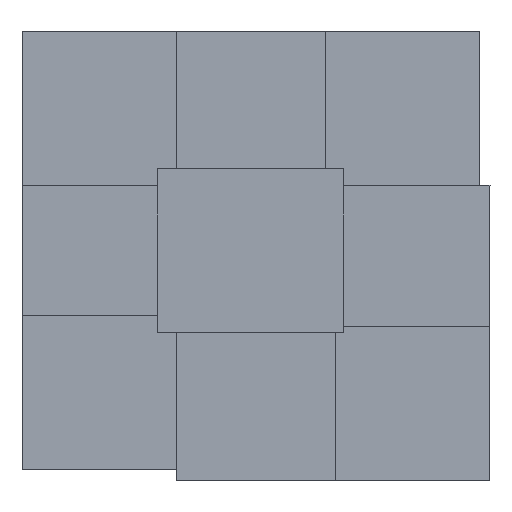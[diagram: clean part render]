
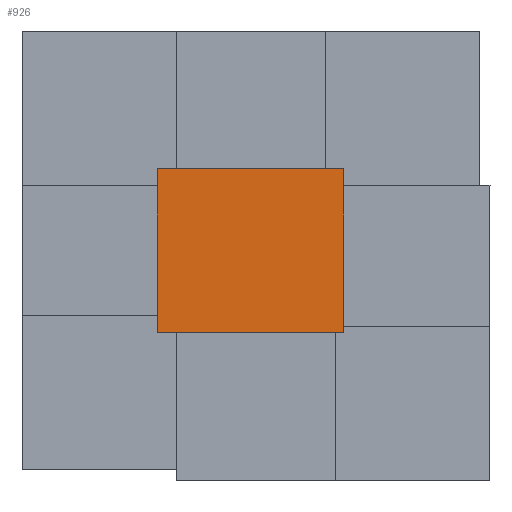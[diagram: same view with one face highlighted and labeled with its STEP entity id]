
A CAD part, left-side view. The second image highlights one B-rep face of the part: STEP entity #926.
In plain terms, the highlighted planar face has unit normal (-1, 0, 0).
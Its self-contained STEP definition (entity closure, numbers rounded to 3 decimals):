
#808=CARTESIAN_POINT('Line Origine',(0.,0.,53.)) ;
#812=CARTESIAN_POINT('Vertex',(0.,0.,0.)) ;
#814=CARTESIAN_POINT('Vertex',(0.,0.,106.)) ;
#883=CARTESIAN_POINT('Vertex',(0.,121.,0.)) ;
#886=CARTESIAN_POINT('Line Origine',(0.,121.,53.)) ;
#890=CARTESIAN_POINT('Vertex',(0.,121.,106.)) ;
#905=CARTESIAN_POINT('Axis2P3D Location',(0.,121.,0.)) ;
#910=CARTESIAN_POINT('Line Origine',(0.,60.5,0.)) ;
#915=CARTESIAN_POINT('Line Origine',(0.,60.5,106.)) ;
#809=DIRECTION('Vector Direction',(0.,0.,1.)) ;
#887=DIRECTION('Vector Direction',(0.,0.,1.)) ;
#906=DIRECTION('Axis2P3D Direction',(-1.,0.,0.)) ;
#907=DIRECTION('Axis2P3D XDirection',(0.,-1.,0.)) ;
#911=DIRECTION('Vector Direction',(0.,-1.,0.)) ;
#916=DIRECTION('Vector Direction',(0.,-1.,0.)) ;
#908=AXIS2_PLACEMENT_3D('Plane Axis2P3D',#905,#906,#907) ;
#921=ORIENTED_EDGE('',*,*,#892,.F.) ;
#922=ORIENTED_EDGE('',*,*,#914,.T.) ;
#923=ORIENTED_EDGE('',*,*,#816,.T.) ;
#924=ORIENTED_EDGE('',*,*,#919,.F.) ;
#810=VECTOR('Line Direction',#809,1.) ;
#888=VECTOR('Line Direction',#887,1.) ;
#912=VECTOR('Line Direction',#911,1.) ;
#917=VECTOR('Line Direction',#916,1.) ;
#926=ADVANCED_FACE('Body.2-molde-superior',(#925),#909,.T.) ;
#816=EDGE_CURVE('',#813,#815,#811,.T.) ;
#892=EDGE_CURVE('',#884,#891,#889,.T.) ;
#914=EDGE_CURVE('',#884,#813,#913,.T.) ;
#919=EDGE_CURVE('',#891,#815,#918,.T.) ;
#920=EDGE_LOOP('',(#921,#922,#923,#924)) ;
#925=FACE_OUTER_BOUND('',#920,.T.) ;
#811=LINE('Line',#808,#810) ;
#889=LINE('Line',#886,#888) ;
#913=LINE('Line',#910,#912) ;
#918=LINE('Line',#915,#917) ;
#909=PLANE('',#908) ;
#813=VERTEX_POINT('',#812) ;
#815=VERTEX_POINT('',#814) ;
#884=VERTEX_POINT('',#883) ;
#891=VERTEX_POINT('',#890) ;
